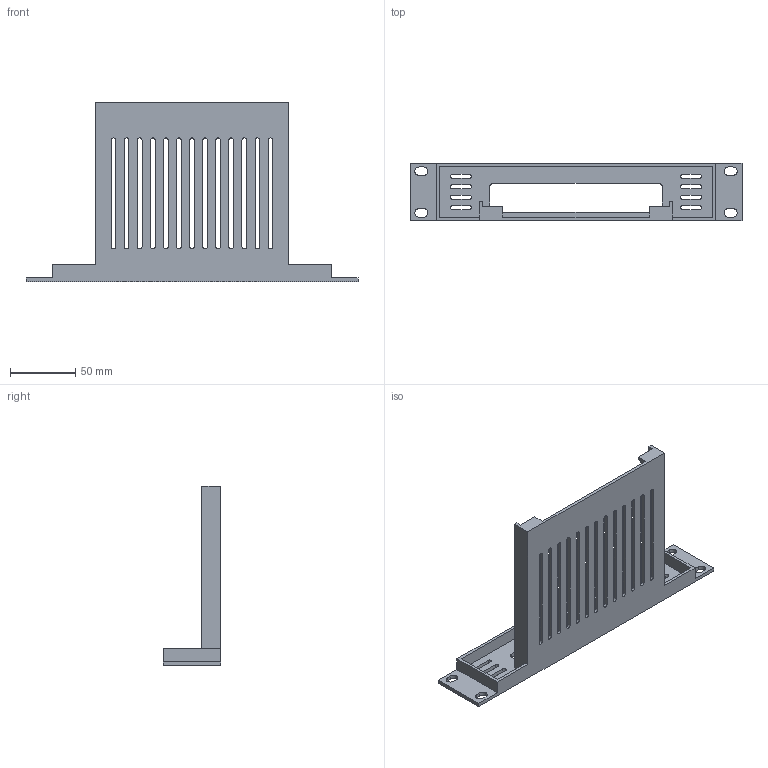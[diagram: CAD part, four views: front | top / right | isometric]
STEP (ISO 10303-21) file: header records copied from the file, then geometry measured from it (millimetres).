
FILE_DESCRIPTION(('Open CASCADE Model'),'2;1');
FILE_NAME('Open CASCADE Shape Model','2026-10-27T02:33:56',('Author'),( 'Open CASCADE'),'Open CASCADE STEP processor 7.9','Open CASCADE 7.9' ,'Unknown');
FILE_SCHEMA(('AUTOMOTIVE_DESIGN { 1 0 10303 214 1 1 1 1 }'));
Length unit declared in the file: millimetre
Products named in the file (1): Open CASCADE STEP translator 7.9 1
Bounding box: 254 x 43.65 x 137.2 mm (x, y, z)
Volume: 78610.5 mm3; surface area: 71098.9 mm2
Topology: 1 solids, 1 shells, 140 faces, 414 edges, 276 vertices
Faces by surface type: plane 86, cylinder 54
Entity records: 10232 total; most frequent: CARTESIAN_POINT 2509, DIRECTION 1282, ORIENTED_EDGE 828, PCURVE 828, DEFINITIONAL_REPRESENTATION 828, LINE 776, VECTOR 776, EDGE_CURVE 414
